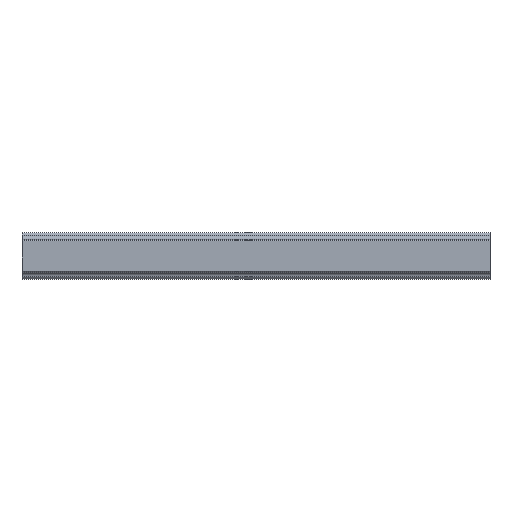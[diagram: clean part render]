
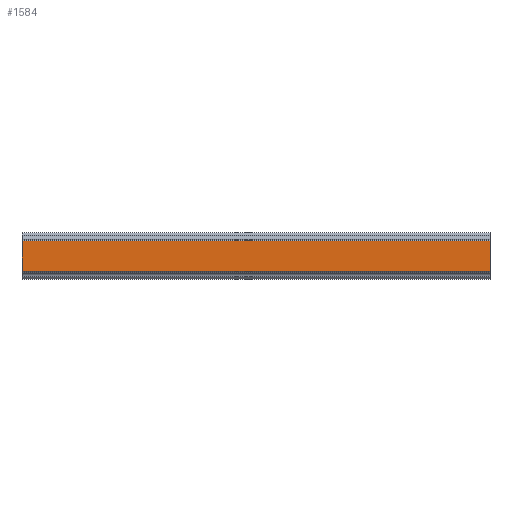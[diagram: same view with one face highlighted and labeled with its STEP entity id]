
A CAD part, top view. The second image highlights one B-rep face of the part: STEP entity #1584.
In plain terms, the highlighted planar face has unit normal (0, 0, 1).
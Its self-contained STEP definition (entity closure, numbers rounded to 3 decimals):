
#1029=CARTESIAN_POINT('POINT75',(260.,9.21,
   26.));
#1030=VERTEX_POINT('VERTEX75',#1029);
#1037=CARTESIAN_POINT('POINT76',(260.,-9.21,
   26.));
#1038=VERTEX_POINT('VERTEX76',#1037);
#1039=CARTESIAN_POINT('POS102',(260.,-9.21,
   26.));
#1040=DIRECTION('DIR155',(0.,1.,0.));
#1041=VECTOR('VEC49',#1040,1.);
#1042=LINE('STRAIGHT49',#1039,#1041);
#1043=EDGE_CURVE('EDGE112',#1038,#1030,#1042,.T.);
#1539=CARTESIAN_POINT('POINT108',(-20.,9.21,
   26.));
#1540=VERTEX_POINT('VERTEX108',#1539);
#1547=CARTESIAN_POINT('POS160',(-20.,9.21,
   26.));
#1548=DIRECTION('DIR235',(1.,0.,0.));
#1549=VECTOR('VEC85',#1548,1.);
#1550=LINE('STRAIGHT85',#1547,#1549);
#1551=EDGE_CURVE('EDGE163',#1540,#1030,#1550,.T.);
#1561=ORIENTED_EDGE('COEDGE276',*,*,#1043,.T.);
#1562=ORIENTED_EDGE('COEDGE277',*,*,#1551,.F.);
#1563=CARTESIAN_POINT('POINT109',(-20.,-9.21,
   26.));
#1564=VERTEX_POINT('VERTEX109',#1563);
#1565=CARTESIAN_POINT('POS162',(-20.,-9.21,
   26.));
#1566=DIRECTION('DIR238',(0.,1.,0.));
#1567=VECTOR('VEC86',#1566,1.);
#1568=LINE('STRAIGHT86',#1565,#1567);
#1569=EDGE_CURVE('EDGE164',#1564,#1540,#1568,.T.);
#1570=ORIENTED_EDGE('COEDGE278',*,*,#1569,.F.);
#1571=CARTESIAN_POINT('POS163',(-20.,-9.21,
   26.));
#1572=DIRECTION('DIR239',(1.,0.,0.));
#1573=VECTOR('VEC87',#1572,1.);
#1574=LINE('STRAIGHT87',#1571,#1573);
#1575=EDGE_CURVE('EDGE165',#1564,#1038,#1574,.T.);
#1576=ORIENTED_EDGE('COEDGE279',*,*,#1575,.T.);
#1577=EDGE_LOOP('NONE',(#1561,#1562,#1570,#1576));
#1578=FACE_BOUND('LOOP1',#1577,.T.);
#1579=CARTESIAN_POINT('POS164',(-20.,-9.21,
   26.));
#1580=DIRECTION('DIR240',(0.,0.,1.));
#1581=DIRECTION('DIR241',(1.,0.,0.));
#1582=AXIS2_PLACEMENT_3D('AXIS77',#1579,#1580,#1581);
#1583=PLANE('PLANE19',#1582);
#1584=ADVANCED_FACE('FACE61',(#1578),#1583,.T.);
